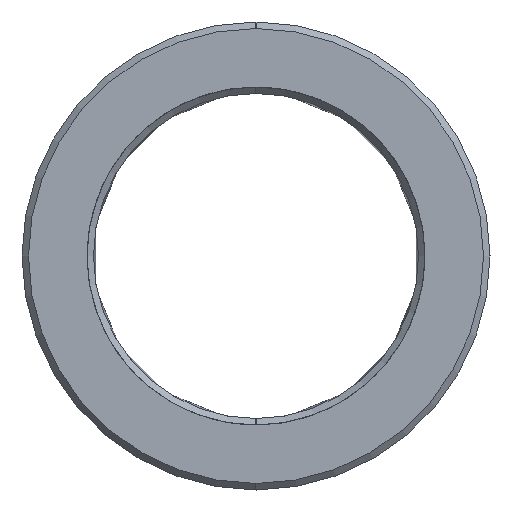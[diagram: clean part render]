
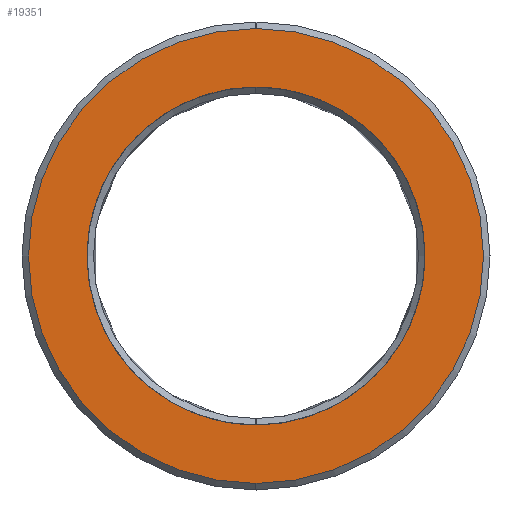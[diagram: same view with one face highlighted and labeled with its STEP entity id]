
A CAD part, left-side view. The second image highlights one B-rep face of the part: STEP entity #19351.
In plain terms, the highlighted planar face has unit normal (1, 0, 0).
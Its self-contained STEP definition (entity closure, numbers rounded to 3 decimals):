
#19268=CARTESIAN_POINT('Axis2P3D Location',(0.,0.,0.)) ;
#19273=CARTESIAN_POINT('Axis2P3D Location',(0.,0.,0.)) ;
#19277=CARTESIAN_POINT('Vertex',(0.,0.,-17.5)) ;
#19279=CARTESIAN_POINT('Vertex',(0.,0.,17.5)) ;
#19282=CARTESIAN_POINT('Axis2P3D Location',(0.,0.,0.)) ;
#19292=CARTESIAN_POINT('Control Point',(0.,0.,13.)) ;
#19293=CARTESIAN_POINT('Control Point',(0.,1.236,13.)) ;
#19294=CARTESIAN_POINT('Control Point',(0.,2.473,12.853)) ;
#19295=CARTESIAN_POINT('Control Point',(0.,3.686,12.559)) ;
#19296=CARTESIAN_POINT('Control Point',(0.,6.019,11.688)) ;
#19297=CARTESIAN_POINT('Control Point',(0.,8.083,10.295)) ;
#19298=CARTESIAN_POINT('Control Point',(0.,9.027,9.478)) ;
#19299=CARTESIAN_POINT('Control Point',(0.,10.702,7.635)) ;
#19300=CARTESIAN_POINT('Control Point',(0.,11.899,5.452)) ;
#19301=CARTESIAN_POINT('Control Point',(0.,12.365,4.293)) ;
#19302=CARTESIAN_POINT('Control Point',(0.,13.011,1.888)) ;
#19303=CARTESIAN_POINT('Control Point',(0.,13.075,-0.601)) ;
#19304=CARTESIAN_POINT('Control Point',(0.,12.958,-1.844)) ;
#19305=CARTESIAN_POINT('Control Point',(0.,12.432,-4.278)) ;
#19306=CARTESIAN_POINT('Control Point',(0.,11.349,-6.521)) ;
#19307=CARTESIAN_POINT('Control Point',(0.,10.676,-7.572)) ;
#19308=CARTESIAN_POINT('Control Point',(0.,9.093,-9.495)) ;
#19309=CARTESIAN_POINT('Control Point',(0.,7.104,-10.993)) ;
#19310=CARTESIAN_POINT('Control Point',(0.,6.025,-11.62)) ;
#19311=CARTESIAN_POINT('Control Point',(0.,4.188,-12.411)) ;
#19312=CARTESIAN_POINT('Control Point',(0.,2.243,-12.838)) ;
#19313=CARTESIAN_POINT('Control Point',(0.,1.499,-12.946)) ;
#19314=CARTESIAN_POINT('Control Point',(0.,0.749,-13.)) ;
#19315=CARTESIAN_POINT('Control Point',(0.,0.,-13.)) ;
#19316=CARTESIAN_POINT('Vertex',(0.,0.,13.)) ;
#19318=CARTESIAN_POINT('Vertex',(0.,0.,-13.)) ;
#19322=CARTESIAN_POINT('Control Point',(0.,0.,-13.)) ;
#19323=CARTESIAN_POINT('Control Point',(0.,-1.236,-13.)) ;
#19324=CARTESIAN_POINT('Control Point',(0.,-2.473,-12.853)) ;
#19325=CARTESIAN_POINT('Control Point',(0.,-3.686,-12.559)) ;
#19326=CARTESIAN_POINT('Control Point',(0.,-6.019,-11.688)) ;
#19327=CARTESIAN_POINT('Control Point',(0.,-8.083,-10.295)) ;
#19328=CARTESIAN_POINT('Control Point',(0.,-9.027,-9.478)) ;
#19329=CARTESIAN_POINT('Control Point',(0.,-10.702,-7.635)) ;
#19330=CARTESIAN_POINT('Control Point',(0.,-11.899,-5.452)) ;
#19331=CARTESIAN_POINT('Control Point',(0.,-12.365,-4.293)) ;
#19332=CARTESIAN_POINT('Control Point',(0.,-13.011,-1.888)) ;
#19333=CARTESIAN_POINT('Control Point',(0.,-13.075,0.601)) ;
#19334=CARTESIAN_POINT('Control Point',(0.,-12.958,1.844)) ;
#19335=CARTESIAN_POINT('Control Point',(0.,-12.432,4.278)) ;
#19336=CARTESIAN_POINT('Control Point',(0.,-11.349,6.521)) ;
#19337=CARTESIAN_POINT('Control Point',(0.,-10.676,7.572)) ;
#19338=CARTESIAN_POINT('Control Point',(0.,-9.093,9.495)) ;
#19339=CARTESIAN_POINT('Control Point',(0.,-7.104,10.993)) ;
#19340=CARTESIAN_POINT('Control Point',(0.,-6.025,11.62)) ;
#19341=CARTESIAN_POINT('Control Point',(0.,-4.188,12.411)) ;
#19342=CARTESIAN_POINT('Control Point',(0.,-2.243,12.838)) ;
#19343=CARTESIAN_POINT('Control Point',(0.,-1.499,12.946)) ;
#19344=CARTESIAN_POINT('Control Point',(0.,-0.749,13.)) ;
#19345=CARTESIAN_POINT('Control Point',(0.,0.,13.)) ;
#19269=DIRECTION('Axis2P3D Direction',(1.,0.,0.)) ;
#19270=DIRECTION('Axis2P3D XDirection',(0.,1.,0.)) ;
#19274=DIRECTION('Axis2P3D Direction',(1.,0.,0.)) ;
#19283=DIRECTION('Axis2P3D Direction',(1.,0.,0.)) ;
#19271=AXIS2_PLACEMENT_3D('Plane Axis2P3D',#19268,#19269,#19270) ;
#19275=AXIS2_PLACEMENT_3D('Circle Axis2P3D',#19273,#19274,$) ;
#19284=AXIS2_PLACEMENT_3D('Circle Axis2P3D',#19282,#19283,$) ;
#19288=ORIENTED_EDGE('',*,*,#19281,.T.) ;
#19289=ORIENTED_EDGE('',*,*,#19286,.T.) ;
#19348=ORIENTED_EDGE('',*,*,#19320,.T.) ;
#19349=ORIENTED_EDGE('',*,*,#19346,.T.) ;
#19350=FACE_BOUND('',#19347,.T.) ;
#19351=ADVANCED_FACE('MANIFOLD_SOLID_BREP #10329',(#19290,#19350),#19272,.T.) ;
#19291=B_SPLINE_CURVE_WITH_KNOTS('',5,(#19292,#19293,#19294,#19295,#19296,#19297,#19298,#19299,#19300,#19301,#19302,#19303,#19304,#19305,#19306,#19307,#19308,#19309,#19310,#19311,#19312,#19313,#19314,#19315),.UNSPECIFIED.,.F.,.U.,(6,3,3,3,3,3,3,6),(0.,8.743,17.486,26.229,34.972,43.715,52.457,57.757),.UNSPECIFIED.) ;
#19321=B_SPLINE_CURVE_WITH_KNOTS('',5,(#19322,#19323,#19324,#19325,#19326,#19327,#19328,#19329,#19330,#19331,#19332,#19333,#19334,#19335,#19336,#19337,#19338,#19339,#19340,#19341,#19342,#19343,#19344,#19345),.UNSPECIFIED.,.F.,.U.,(6,3,3,3,3,3,3,6),(0.,8.743,17.486,26.229,34.972,43.715,52.457,57.757),.UNSPECIFIED.) ;
#19276=CIRCLE('generated circle',#19275,17.5) ;
#19285=CIRCLE('generated circle',#19284,17.5) ;
#19281=EDGE_CURVE('',#19278,#19280,#19276,.T.) ;
#19286=EDGE_CURVE('',#19280,#19278,#19285,.T.) ;
#19320=EDGE_CURVE('',#19317,#19319,#19291,.T.) ;
#19346=EDGE_CURVE('',#19319,#19317,#19321,.T.) ;
#19287=EDGE_LOOP('',(#19288,#19289)) ;
#19347=EDGE_LOOP('',(#19348,#19349)) ;
#19290=FACE_OUTER_BOUND('',#19287,.T.) ;
#19272=PLANE('Plane',#19271) ;
#19278=VERTEX_POINT('',#19277) ;
#19280=VERTEX_POINT('',#19279) ;
#19317=VERTEX_POINT('',#19316) ;
#19319=VERTEX_POINT('',#19318) ;
